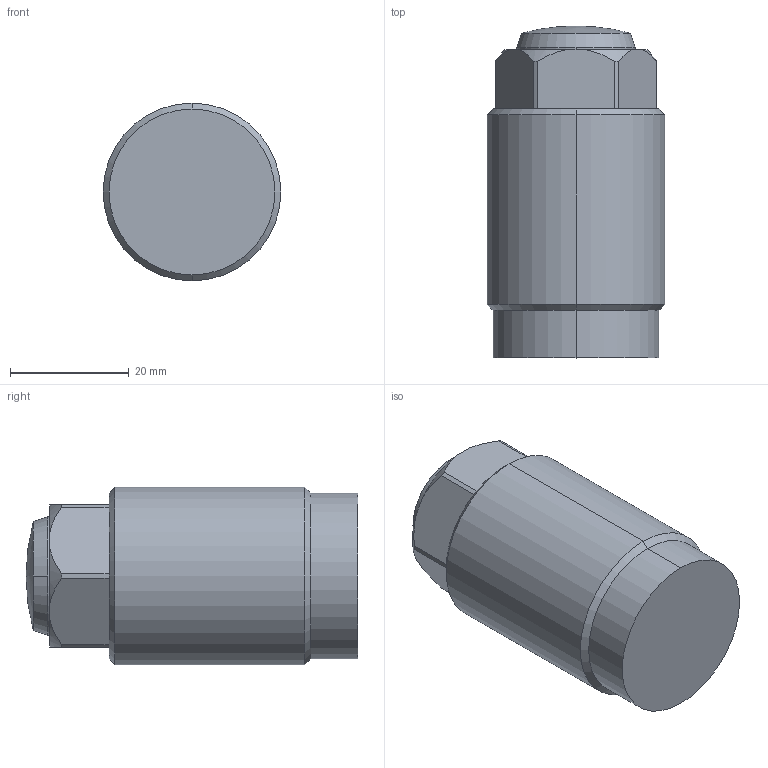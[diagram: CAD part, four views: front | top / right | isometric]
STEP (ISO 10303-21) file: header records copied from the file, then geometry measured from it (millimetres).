
FILE_DESCRIPTION (( 'STEP AP214' ), '1' );
FILE_NAME ('TC-20A.STEP', '2021-10-19T00:43:43', ( '' ), ( '' ), 'SwSTEP 2.0', 'SolidWorks 2016', '' );
FILE_SCHEMA (( 'AUTOMOTIVE_DESIGN' ));
Length unit declared in the file: millimetre
Products named in the file (1): TC-20A
Bounding box: 30 x 56 x 30 mm (x, y, z)
Volume: 34797.1 mm3; surface area: 6132.5 mm2
Topology: 1 solids, 1 shells, 36 faces, 89 edges, 57 vertices
Faces by surface type: cone 13, cylinder 12, plane 9, sphere 2
Entity records: 1193 total; most frequent: CARTESIAN_POINT 267, DIRECTION 191, ORIENTED_EDGE 178, EDGE_CURVE 89, AXIS2_PLACEMENT_3D 77, VERTEX_POINT 57, CIRCLE 40, EDGE_LOOP 38
